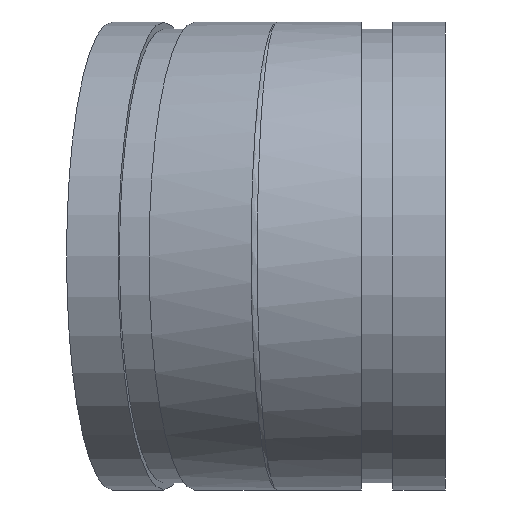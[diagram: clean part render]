
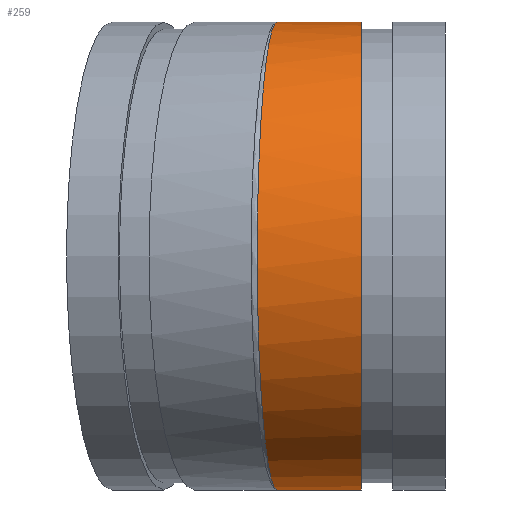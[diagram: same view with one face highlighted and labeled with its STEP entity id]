
A CAD part, left-side view. The second image highlights one B-rep face of the part: STEP entity #259.
In plain terms, the highlighted cylindrical face has radius 70.65 mm (diameter 141.3 mm), a full revolution.
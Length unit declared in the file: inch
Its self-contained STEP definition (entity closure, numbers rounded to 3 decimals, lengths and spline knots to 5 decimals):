
#27=LINE('',#525,#35);
#35=VECTOR('',#364,2.7815);
#43=CIRCLE('',#299,2.7815);
#59=CYLINDRICAL_SURFACE('',#305,2.7815);
#71=FACE_OUTER_BOUND('',#89,.T.);
#89=EDGE_LOOP('',(#187,#188,#189,#190,#191,#192));
#106=ELLIPSE('',#292,2.79882,2.7815);
#107=ELLIPSE('',#293,2.79882,2.7815);
#109=ELLIPSE('',#297,2.79158,2.7815);
#113=VERTEX_POINT('',#458);
#115=VERTEX_POINT('',#461);
#116=VERTEX_POINT('',#463);
#118=VERTEX_POINT('',#513);
#138=EDGE_CURVE('',#115,#116,#106,.T.);
#139=EDGE_CURVE('',#116,#113,#107,.T.);
#143=EDGE_CURVE('',#113,#115,#109,.T.);
#144=EDGE_CURVE('',#118,#118,#43,.T.);
#149=EDGE_CURVE('',#116,#118,#27,.T.);
#187=ORIENTED_EDGE('',*,*,#138,.F.);
#188=ORIENTED_EDGE('',*,*,#143,.F.);
#189=ORIENTED_EDGE('',*,*,#139,.F.);
#190=ORIENTED_EDGE('',*,*,#149,.T.);
#191=ORIENTED_EDGE('',*,*,#144,.F.);
#192=ORIENTED_EDGE('',*,*,#149,.F.);
#259=ADVANCED_FACE('',(#71),#59,.T.);
#292=AXIS2_PLACEMENT_3D('',#464,#335,#336);
#293=AXIS2_PLACEMENT_3D('',#465,#337,#338);
#297=AXIS2_PLACEMENT_3D('',#511,#346,#347);
#299=AXIS2_PLACEMENT_3D('',#514,#350,#351);
#305=AXIS2_PLACEMENT_3D('',#524,#362,#363);
#335=DIRECTION('center_axis',(0.111,0.994,0.));
#336=DIRECTION('ref_axis',(0.994,-0.111,0.));
#337=DIRECTION('center_axis',(0.111,0.994,0.));
#338=DIRECTION('ref_axis',(0.994,-0.111,0.));
#346=DIRECTION('center_axis',(0.085,0.996,0.));
#347=DIRECTION('ref_axis',(-0.996,0.085,0.));
#350=DIRECTION('center_axis',(0.,-1.,0.));
#351=DIRECTION('ref_axis',(-1.,0.,0.));
#362=DIRECTION('center_axis',(0.,1.,0.));
#363=DIRECTION('ref_axis',(-1.,0.,0.));
#364=DIRECTION('',(0.,-1.,0.));
#458=CARTESIAN_POINT('',(0.,2.,-2.7815));
#461=CARTESIAN_POINT('',(0.,2.,2.7815));
#463=CARTESIAN_POINT('',(2.7815,1.68911,0.));
#464=CARTESIAN_POINT('Origin',(0.,2.,0.));
#465=CARTESIAN_POINT('Origin',(0.,2.,0.));
#511=CARTESIAN_POINT('Origin',(0.,2.,0.));
#513=CARTESIAN_POINT('',(2.7815,1.,0.));
#514=CARTESIAN_POINT('Origin',(0.,1.,0.));
#524=CARTESIAN_POINT('Origin',(0.,1.,0.));
#525=CARTESIAN_POINT('',(2.7815,1.,0.));
